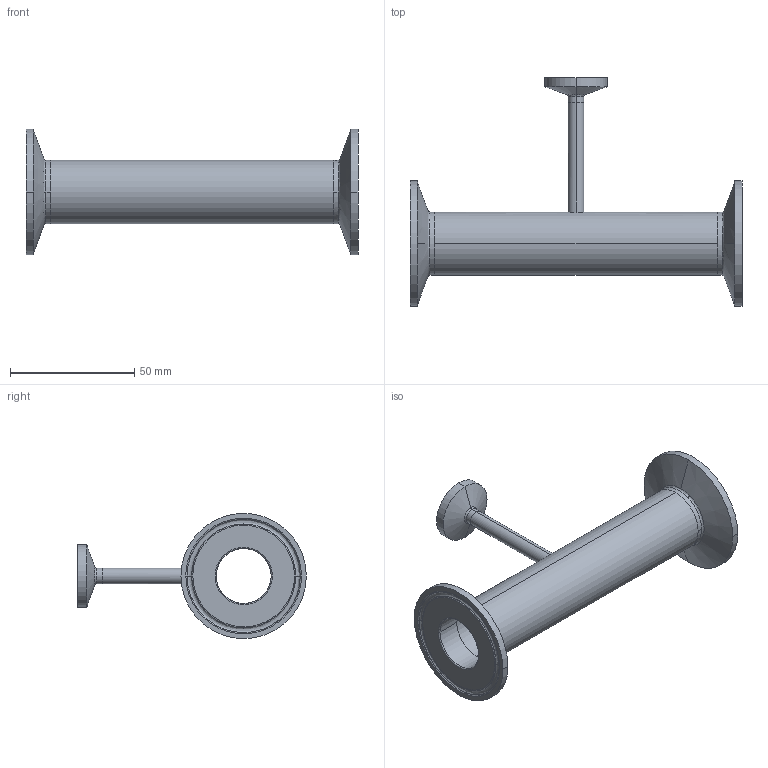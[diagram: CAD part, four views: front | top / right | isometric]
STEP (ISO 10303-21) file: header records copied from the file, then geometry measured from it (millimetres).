
FILE_DESCRIPTION (( 'STEP AP214' ), '1' );
FILE_NAME ('TEG7R6L1.0x.25-...STEP', '2016-05-24T05:27:59', ( 'eran' ), ( '' ), 'SwSTEP 2.0', 'SolidWorks 2016', '' );
FILE_SCHEMA (( 'AUTOMOTIVE_DESIGN' ));
Length unit declared in the file: millimetre
Products named in the file (1): TEG7R6L1.0x.25-..
Bounding box: 133.4 x 91.9 x 50.39 mm (x, y, z)
Volume: 33243.4 mm3; surface area: 29717.2 mm2
Topology: 4 solids, 4 shells, 84 faces, 198 edges, 126 vertices
Faces by surface type: cylinder 28, bspline 28, cone 16, plane 12
Entity records: 3753 total; most frequent: CARTESIAN_POINT 1769, DIRECTION 426, ORIENTED_EDGE 396, EDGE_CURVE 198, AXIS2_PLACEMENT_3D 191, CIRCLE 134, VERTEX_POINT 126, EDGE_LOOP 98
